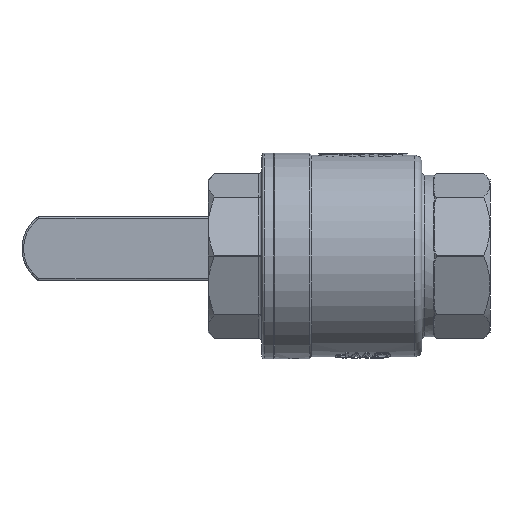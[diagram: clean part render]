
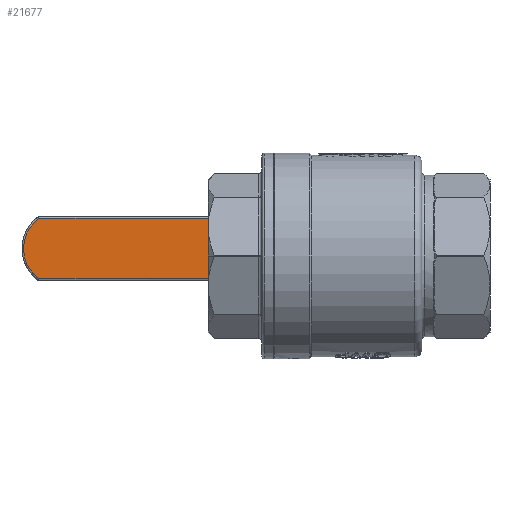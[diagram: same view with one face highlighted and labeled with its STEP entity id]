
A CAD part, front view. The second image highlights one B-rep face of the part: STEP entity #21677.
In plain terms, the highlighted planar face has unit normal (0, -1, 0).
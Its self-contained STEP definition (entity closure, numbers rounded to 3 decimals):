
#3628 = CARTESIAN_POINT ( 'NONE',  ( -155.066, -6., 19.75 ) ) ;
#7121 = DIRECTION ( 'NONE',  ( 0., 0., -1. ) ) ;
#7182 = DIRECTION ( 'NONE',  ( -1., 0., 0. ) ) ;
#12732 = EDGE_CURVE ( 'NONE', #56493, #102896, #116832, .T. ) ;
#21677 = ADVANCED_FACE ( 'NONE', ( #120796 ), #26528, .F. ) ;
#24515 = VECTOR ( 'NONE', #7121, 1000. ) ;
#26528 = PLANE ( 'NONE',  #120451 ) ;
#33576 = DIRECTION ( 'NONE',  ( -1., 0., 0. ) ) ;
#35998 = LINE ( 'NONE', #88249, #100277 ) ;
#38673 = ORIENTED_EDGE ( 'NONE', *, *, #107709, .T. ) ;
#38978 = DIRECTION ( 'NONE',  ( -1., 0., 0. ) ) ;
#49947 = ORIENTED_EDGE ( 'NONE', *, *, #106915, .T. ) ;
#51431 = CARTESIAN_POINT ( 'NONE',  ( -154.632, -6., -19.75 ) ) ;
#56493 = VERTEX_POINT ( 'NONE', #127472 ) ;
#58762 = CARTESIAN_POINT ( 'NONE',  ( -155.5, -6., 19.75 ) ) ;
#70594 = EDGE_LOOP ( 'NONE', ( #103541, #49947, #72931, #38673 ) ) ;
#71140 = CARTESIAN_POINT ( 'NONE',  ( -10.002, -6., -19.75 ) ) ;
#72931 = ORIENTED_EDGE ( 'NONE', *, *, #105461, .T. ) ;
#76754 = DIRECTION ( 'NONE',  ( 1., 0., 0. ) ) ;
#88249 = CARTESIAN_POINT ( 'NONE',  ( -155.5, -6., -19.75 ) ) ;
#88680 = LINE ( 'NONE', #3628, #126607 ) ;
#91504 = CARTESIAN_POINT ( 'NONE',  ( -154.632, -6., -20.75 ) ) ;
#99944 = CIRCLE ( 'NONE', #112938, 24.5 ) ;
#100277 = VECTOR ( 'NONE', #76754, 1000. ) ;
#102568 = DIRECTION ( 'NONE',  ( 0., -1., 0. ) ) ;
#102896 = VERTEX_POINT ( 'NONE', #51431 ) ;
#103541 = ORIENTED_EDGE ( 'NONE', *, *, #12732, .T. ) ;
#105461 = EDGE_CURVE ( 'NONE', #111888, #135392, #99944, .T. ) ;
#106915 = EDGE_CURVE ( 'NONE', #102896, #111888, #35998, .T. ) ;
#107709 = EDGE_CURVE ( 'NONE', #135392, #56493, #88680, .T. ) ;
#111802 = DIRECTION ( 'NONE',  ( 0., 1., 0. ) ) ;
#111888 = VERTEX_POINT ( 'NONE', #71140 ) ;
#112938 = AXIS2_PLACEMENT_3D ( 'NONE', #113176, #102568, #7182 ) ;
#113176 = CARTESIAN_POINT ( 'NONE',  ( -24.5, -6., 0. ) ) ;
#114572 = CARTESIAN_POINT ( 'NONE',  ( -10.002, -6., 19.75 ) ) ;
#116832 = LINE ( 'NONE', #91504, #24515 ) ;
#120451 = AXIS2_PLACEMENT_3D ( 'NONE', #58762, #111802, #38978 ) ;
#120796 = FACE_OUTER_BOUND ( 'NONE', #70594, .T. ) ;
#126607 = VECTOR ( 'NONE', #33576, 1000. ) ;
#127472 = CARTESIAN_POINT ( 'NONE',  ( -154.632, -6., 19.75 ) ) ;
#135392 = VERTEX_POINT ( 'NONE', #114572 ) ;
